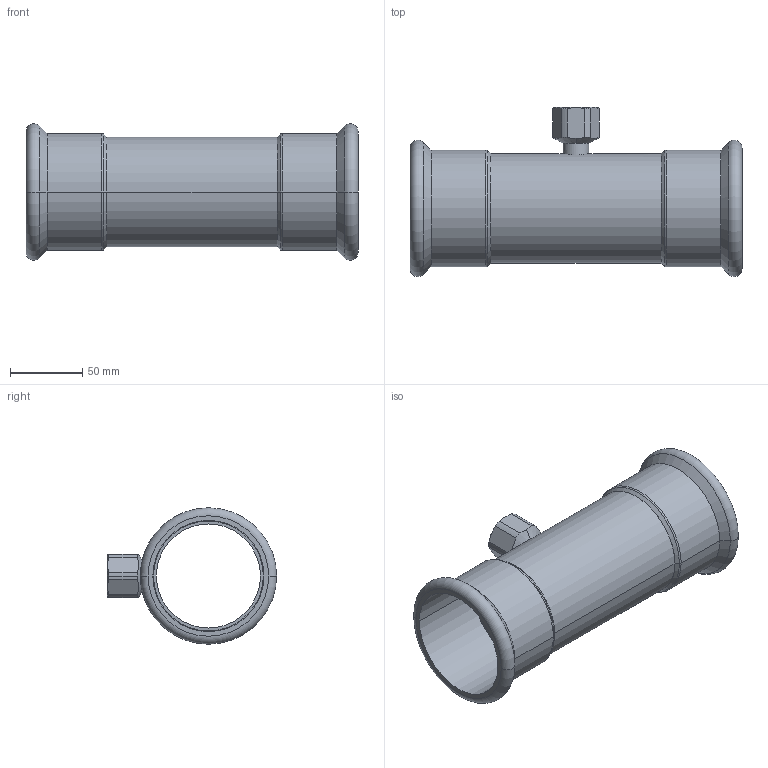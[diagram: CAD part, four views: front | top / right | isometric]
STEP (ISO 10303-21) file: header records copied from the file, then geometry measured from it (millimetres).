
FILE_DESCRIPTION(('CoCreate Modeling STEP Export'),'2;1');
FILE_NAME('C1418 76.1xRp3-4x76.1.stp','2014-11-12T15:22:15',(''),(''),'CoCreate Modeling STEP processor for AP214 (Solid Model)','CoCreate Modeling 17.00A 17-Jun-2010 (C) Parametric Technology GmbH','');
FILE_SCHEMA(('AUTOMOTIVE_DESIGN { 1 0 10303 214 1 1 1 1 }'));
Length unit declared in the file: millimetre
Products named in the file (2): C1418_76xRp3-4x76
Assembly tree (1 placements, depth 2):
  C1418_76xRp3-4x76
    C1418_76xRp3-4x76
Bounding box: 230 x 117.24 x 94.48 mm (x, y, z)
Volume: 154758.8 mm3; surface area: 123468.8 mm2
Topology: 1 solids, 1 shells, 66 faces, 156 edges, 98 vertices
Faces by surface type: cylinder 30, plane 16, cone 12, torus 8
Entity records: 3077 total; most frequent: CARTESIAN_POINT 1688, ORIENTED_EDGE 312, DIRECTION 238, EDGE_CURVE 156, VERTEX_POINT 98, AXIS2_PLACEMENT_3D 95, EDGE_LOOP 76, FACE_OUTER_BOUND 66
